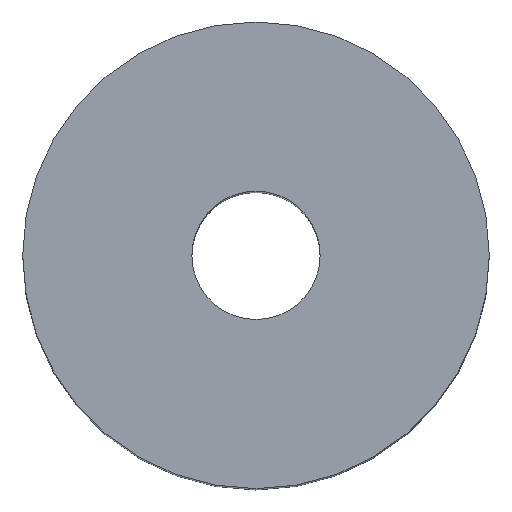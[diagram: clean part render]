
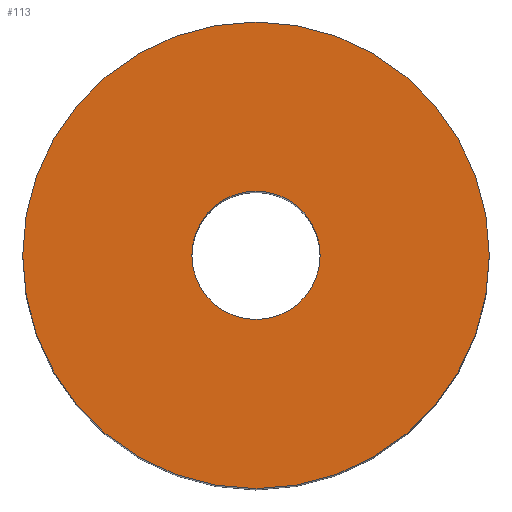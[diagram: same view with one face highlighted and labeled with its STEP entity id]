
A CAD part, top view. The second image highlights one B-rep face of the part: STEP entity #113.
In plain terms, the highlighted planar face has unit normal (0, 0, 1).
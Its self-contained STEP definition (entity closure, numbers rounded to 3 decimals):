
#113=ADVANCED_FACE('',(#121,#122),#119,.T.);
#119=PLANE('',#190);
#121=FACE_BOUND('',#125,.T.);
#122=FACE_BOUND('',#126,.T.);
#125=EDGE_LOOP('',(#133,#134));
#126=EDGE_LOOP('',(#135,#136));
#133=ORIENTED_EDGE('',*,*,#165,.T.);
#134=ORIENTED_EDGE('',*,*,#166,.T.);
#135=ORIENTED_EDGE('',*,*,#167,.F.);
#136=ORIENTED_EDGE('',*,*,#168,.F.);
#157=VERTEX_POINT('',#236);
#158=VERTEX_POINT('',#237);
#159=VERTEX_POINT('',#240);
#160=VERTEX_POINT('',#241);
#165=EDGE_CURVE('',#157,#158,#177,.T.);
#166=EDGE_CURVE('',#158,#157,#178,.T.);
#167=EDGE_CURVE('',#159,#160,#179,.T.);
#168=EDGE_CURVE('',#160,#159,#180,.T.);
#177=CIRCLE('',#186,40.);
#178=CIRCLE('',#187,40.);
#179=CIRCLE('',#188,11.);
#180=CIRCLE('',#189,11.);
#186=AXIS2_PLACEMENT_3D('',#235,#202,#203);
#187=AXIS2_PLACEMENT_3D('',#238,#204,#205);
#188=AXIS2_PLACEMENT_3D('',#239,#206,#207);
#189=AXIS2_PLACEMENT_3D('',#242,#208,#209);
#190=AXIS2_PLACEMENT_3D('',#243,#210,#211);
#202=DIRECTION('',(0.,0.,1.));
#203=DIRECTION('',(0.,1.,0.));
#204=DIRECTION('',(0.,0.,1.));
#205=DIRECTION('',(0.,-1.,0.));
#206=DIRECTION('',(0.,0.,1.));
#207=DIRECTION('',(0.,-1.,0.));
#208=DIRECTION('',(0.,0.,1.));
#209=DIRECTION('',(0.,1.,0.));
#210=DIRECTION('',(0.,0.,1.));
#211=DIRECTION('',(0.,1.,0.));
#235=CARTESIAN_POINT('',(0.,0.,130.));
#236=CARTESIAN_POINT('',(-40.,0.,130.));
#237=CARTESIAN_POINT('',(40.,0.,130.));
#238=CARTESIAN_POINT('',(0.,0.,130.));
#239=CARTESIAN_POINT('',(0.,0.,130.));
#240=CARTESIAN_POINT('',(11.,0.,130.));
#241=CARTESIAN_POINT('',(-11.,0.,130.));
#242=CARTESIAN_POINT('',(0.,0.,130.));
#243=CARTESIAN_POINT('',(0.,0.,130.));
